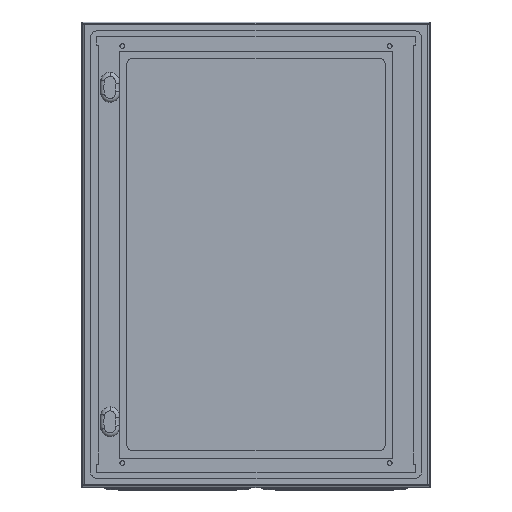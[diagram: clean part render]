
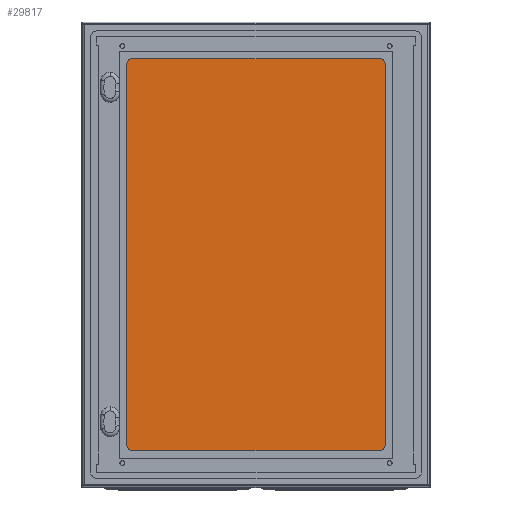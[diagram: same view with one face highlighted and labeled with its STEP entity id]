
A CAD part, top view. The second image highlights one B-rep face of the part: STEP entity #29817.
In plain terms, the highlighted planar face has unit normal (0, 0, 1) as drawn and (0, 0, -1) by its records, which use the part's own axes.
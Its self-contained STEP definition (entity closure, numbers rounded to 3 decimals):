
#947 = LINE ( 'NONE', #5939, #34787 ) ;
#4383 = FACE_OUTER_BOUND ( 'NONE', #4838, .T. ) ;
#4838 = EDGE_LOOP ( 'NONE', ( #46339, #24167, #8194, #39782 ) ) ;
#5939 = CARTESIAN_POINT ( 'NONE',  ( -235., -350., 1.5 ) ) ;
#8194 = ORIENTED_EDGE ( 'NONE', *, *, #21566, .F. ) ;
#10890 = EDGE_CURVE ( 'NONE', #30781, #23482, #11775, .T. ) ;
#11172 = DIRECTION ( 'NONE',  ( 0., 1., 0. ) ) ;
#11775 = LINE ( 'NONE', #45560, #14621 ) ;
#12695 = CARTESIAN_POINT ( 'NONE',  ( 235., 350., 1.5 ) ) ;
#14621 = VECTOR ( 'NONE', #11172, 1000. ) ;
#14696 = DIRECTION ( 'NONE',  ( -1., 0., 0. ) ) ;
#15497 = VERTEX_POINT ( 'NONE', #58564 ) ;
#17474 = VECTOR ( 'NONE', #38473, 1000. ) ;
#17779 = DIRECTION ( 'NONE',  ( -1., 0., 0. ) ) ;
#18428 = CARTESIAN_POINT ( 'NONE',  ( 0., 0., 1.5 ) ) ;
#19055 = EDGE_CURVE ( 'NONE', #23482, #15497, #51082, .T. ) ;
#21566 = EDGE_CURVE ( 'NONE', #15497, #33257, #57249, .T. ) ;
#23482 = VERTEX_POINT ( 'NONE', #12695 ) ;
#24167 = ORIENTED_EDGE ( 'NONE', *, *, #25492, .F. ) ;
#25492 = EDGE_CURVE ( 'NONE', #33257, #30781, #947, .T. ) ;
#27301 = VECTOR ( 'NONE', #17779, 1000. ) ;
#29091 = PLANE ( 'NONE',  #31060 ) ;
#29817 = ADVANCED_FACE ( 'NONE', ( #4383 ), #29091, .T. ) ;
#30781 = VERTEX_POINT ( 'NONE', #52134 ) ;
#31060 = AXIS2_PLACEMENT_3D ( 'NONE', #18428, #61628, #14696 ) ;
#33257 = VERTEX_POINT ( 'NONE', #38770 ) ;
#34787 = VECTOR ( 'NONE', #58160, 1000. ) ;
#38473 = DIRECTION ( 'NONE',  ( 0., -1., 0. ) ) ;
#38770 = CARTESIAN_POINT ( 'NONE',  ( -235., -350., 1.5 ) ) ;
#39782 = ORIENTED_EDGE ( 'NONE', *, *, #19055, .F. ) ;
#41946 = CARTESIAN_POINT ( 'NONE',  ( -235., -350., 1.5 ) ) ;
#45560 = CARTESIAN_POINT ( 'NONE',  ( 235., -350., 1.5 ) ) ;
#46339 = ORIENTED_EDGE ( 'NONE', *, *, #10890, .F. ) ;
#51082 = LINE ( 'NONE', #55647, #27301 ) ;
#52134 = CARTESIAN_POINT ( 'NONE',  ( 235., -350., 1.5 ) ) ;
#55647 = CARTESIAN_POINT ( 'NONE',  ( -235., 350., 1.5 ) ) ;
#57249 = LINE ( 'NONE', #41946, #17474 ) ;
#58160 = DIRECTION ( 'NONE',  ( 1., 0., 0. ) ) ;
#58564 = CARTESIAN_POINT ( 'NONE',  ( -235., 350., 1.5 ) ) ;
#61628 = DIRECTION ( 'NONE',  ( 0., 0., -1. ) ) ;
